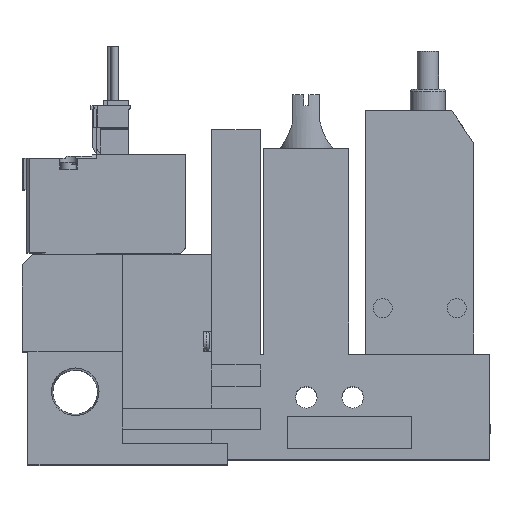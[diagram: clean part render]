
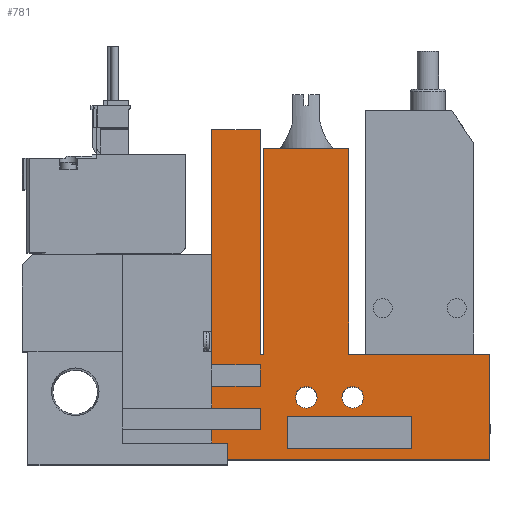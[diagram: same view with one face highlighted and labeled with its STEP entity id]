
A CAD part, top view. The second image highlights one B-rep face of the part: STEP entity #781.
In plain terms, the highlighted planar face has unit normal (0, 0, 1).
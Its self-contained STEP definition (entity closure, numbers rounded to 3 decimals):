
#781=ADVANCED_FACE('',(#1627,#1628,#1629,#1630),#1631,.T.);
#1627=FACE_OUTER_BOUND('',#2652,.T.);
#1628=FACE_BOUND('',#2653,.T.);
#1629=FACE_BOUND('',#2654,.T.);
#1630=FACE_BOUND('',#2655,.T.);
#1631=PLANE('',#2656);
#2652=EDGE_LOOP('',(#5758,#5759,#5760,#5761,#5762,#5763,#5764,#5765,#5766,#5767,#5768,#5769,#5770,#5771,#5772,#5773,#5774,#5775));
#2653=EDGE_LOOP('',(#5776,#5777,#5778,#5779));
#2654=EDGE_LOOP('',(#5780));
#2655=EDGE_LOOP('',(#5781));
#2656=AXIS2_PLACEMENT_3D('',#5782,#5783,#5784);
#5758=ORIENTED_EDGE('',*,*,#7351,.T.);
#5759=ORIENTED_EDGE('',*,*,#7327,.T.);
#5760=ORIENTED_EDGE('',*,*,#7375,.T.);
#5761=ORIENTED_EDGE('',*,*,#7245,.T.);
#5762=ORIENTED_EDGE('',*,*,#7331,.T.);
#5763=ORIENTED_EDGE('',*,*,#7213,.T.);
#5764=ORIENTED_EDGE('',*,*,#7353,.T.);
#5765=ORIENTED_EDGE('',*,*,#7267,.T.);
#5766=ORIENTED_EDGE('',*,*,#7312,.T.);
#5767=ORIENTED_EDGE('',*,*,#7372,.T.);
#5768=ORIENTED_EDGE('',*,*,#7376,.T.);
#5769=ORIENTED_EDGE('',*,*,#7258,.T.);
#5770=ORIENTED_EDGE('',*,*,#7229,.T.);
#5771=ORIENTED_EDGE('',*,*,#7183,.T.);
#5772=ORIENTED_EDGE('',*,*,#7377,.T.);
#5773=ORIENTED_EDGE('',*,*,#7373,.T.);
#5774=ORIENTED_EDGE('',*,*,#7226,.T.);
#5775=ORIENTED_EDGE('',*,*,#7378,.T.);
#5776=ORIENTED_EDGE('',*,*,#7358,.T.);
#5777=ORIENTED_EDGE('',*,*,#7262,.T.);
#5778=ORIENTED_EDGE('',*,*,#7194,.T.);
#5779=ORIENTED_EDGE('',*,*,#7292,.T.);
#5780=ORIENTED_EDGE('',*,*,#7264,.T.);
#5781=ORIENTED_EDGE('',*,*,#7357,.T.);
#5782=CARTESIAN_POINT('',(0.0,0.0,10.0));
#5783=DIRECTION('',(0.0,0.0,1.0));
#5784=DIRECTION('',(1.0,0.0,0.0));
#7183=EDGE_CURVE('',#8773,#8771,#8774,.T.);
#7194=EDGE_CURVE('',#8786,#8791,#8793,.T.);
#7213=EDGE_CURVE('',#8828,#8829,#8830,.T.);
#7226=EDGE_CURVE('',#8854,#8852,#8855,.T.);
#7229=EDGE_CURVE('',#8859,#8773,#8860,.T.);
#7245=EDGE_CURVE('',#8879,#8886,#8888,.T.);
#7258=EDGE_CURVE('',#8911,#8859,#8912,.T.);
#7262=EDGE_CURVE('',#8914,#8786,#8918,.T.);
#7264=EDGE_CURVE('',#8921,#8921,#8922,.T.);
#7267=EDGE_CURVE('',#8928,#8926,#8929,.T.);
#7292=EDGE_CURVE('',#8791,#8966,#8968,.T.);
#7312=EDGE_CURVE('',#8926,#8999,#9001,.T.);
#7327=EDGE_CURVE('',#9018,#9022,#9024,.T.);
#7331=EDGE_CURVE('',#8886,#8828,#9029,.T.);
#7351=EDGE_CURVE('',#9057,#9018,#9058,.T.);
#7353=EDGE_CURVE('',#8829,#8928,#9060,.T.);
#7357=EDGE_CURVE('',#9066,#9066,#9067,.T.);
#7358=EDGE_CURVE('',#8966,#8914,#9068,.T.);
#7372=EDGE_CURVE('',#8999,#9086,#9088,.T.);
#7373=EDGE_CURVE('',#9089,#8854,#9090,.T.);
#7375=EDGE_CURVE('',#9022,#8879,#9092,.T.);
#7376=EDGE_CURVE('',#9086,#8911,#9093,.T.);
#7377=EDGE_CURVE('',#8771,#9089,#9094,.T.);
#7378=EDGE_CURVE('',#8852,#9057,#9095,.T.);
#8771=VERTEX_POINT('',#11337);
#8773=VERTEX_POINT('',#11340);
#8774=LINE('',#11341,#11342);
#8786=VERTEX_POINT('',#11361);
#8791=VERTEX_POINT('',#11368);
#8793=LINE('',#11371,#11372);
#8828=VERTEX_POINT('',#11419);
#8829=VERTEX_POINT('',#11420);
#8830=LINE('',#11421,#11422);
#8852=VERTEX_POINT('',#11454);
#8854=VERTEX_POINT('',#11457);
#8855=LINE('',#11458,#11459);
#8859=VERTEX_POINT('',#11465);
#8860=LINE('',#11466,#11467);
#8879=VERTEX_POINT('',#11489);
#8886=VERTEX_POINT('',#11499);
#8888=LINE('',#11502,#11503);
#8911=VERTEX_POINT('',#11538);
#8912=LINE('',#11539,#11540);
#8914=VERTEX_POINT('',#11543);
#8918=LINE('',#11549,#11550);
#8921=VERTEX_POINT('',#11553);
#8922=CIRCLE('',#11554,2.0);
#8926=VERTEX_POINT('',#11559);
#8928=VERTEX_POINT('',#11562);
#8929=LINE('',#11563,#11564);
#8966=VERTEX_POINT('',#11624);
#8968=LINE('',#11627,#11628);
#8999=VERTEX_POINT('',#11677);
#9001=LINE('',#11680,#11681);
#9018=VERTEX_POINT('',#11709);
#9022=VERTEX_POINT('',#11715);
#9024=LINE('',#11718,#11719);
#9029=LINE('',#11727,#11728);
#9057=VERTEX_POINT('',#11774);
#9058=LINE('',#11775,#11776);
#9060=LINE('',#11779,#11780);
#9066=VERTEX_POINT('',#11788);
#9067=CIRCLE('',#11789,2.0);
#9068=LINE('',#11790,#11791);
#9086=VERTEX_POINT('',#11821);
#9088=LINE('',#11824,#11825);
#9089=VERTEX_POINT('',#11826);
#9090=LINE('',#11827,#11828);
#9092=LINE('',#11831,#11832);
#9093=LINE('',#11833,#11834);
#9094=LINE('',#11835,#11836);
#9095=LINE('',#11837,#11838);
#11337=CARTESIAN_POINT('',(44.75,57.5,10.0));
#11340=CARTESIAN_POINT('',(60.45,57.5,10.0));
#11341=CARTESIAN_POINT('',(60.45,57.5,10.0));
#11342=VECTOR('',#13299,1.0);
#11361=CARTESIAN_POINT('',(72.1,8.0,10.0));
#11368=CARTESIAN_POINT('',(72.1,2.0,10.0));
#11371=CARTESIAN_POINT('',(72.1,0.0,10.0));
#11372=VECTOR('',#13310,1.0);
#11419=CARTESIAN_POINT('',(35.1,9.5,10.0));
#11420=CARTESIAN_POINT('',(44.1,9.5,10.0));
#11421=CARTESIAN_POINT('',(0.0,9.5,10.0));
#11422=VECTOR('',#13338,1.0);
#11454=CARTESIAN_POINT('',(44.1,61.0,10.0));
#11457=CARTESIAN_POINT('',(44.1,19.5,10.0));
#11458=CARTESIAN_POINT('',(44.1,19.5,10.0));
#11459=VECTOR('',#13353,1.0);
#11465=CARTESIAN_POINT('',(60.45,19.5,10.0));
#11466=CARTESIAN_POINT('',(60.45,19.5,10.0));
#11467=VECTOR('',#13356,1.0);
#11489=CARTESIAN_POINT('',(44.1,13.5,10.0));
#11499=CARTESIAN_POINT('',(35.1,13.5,10.0));
#11502=CARTESIAN_POINT('',(0.0,13.5,10.0));
#11503=VECTOR('',#13388,1.0);
#11538=CARTESIAN_POINT('',(86.6,19.5,10.0));
#11539=CARTESIAN_POINT('',(86.6,19.5,10.0));
#11540=VECTOR('',#13401,1.0);
#11543=CARTESIAN_POINT('',(49.1,8.0,10.0));
#11549=CARTESIAN_POINT('',(0.0,8.0,10.0));
#11550=VECTOR('',#13405,1.0);
#11553=CARTESIAN_POINT('',(54.6,11.5,10.0));
#11554=AXIS2_PLACEMENT_3D('',#13409,#13410,#13411);
#11559=CARTESIAN_POINT('',(35.1,5.5,10.0));
#11562=CARTESIAN_POINT('',(44.1,5.5,10.0));
#11563=CARTESIAN_POINT('',(0.0,5.5,10.0));
#11564=VECTOR('',#13414,1.0);
#11624=CARTESIAN_POINT('',(49.1,2.0,10.0));
#11627=CARTESIAN_POINT('',(0.0,2.0,10.0));
#11628=VECTOR('',#13439,1.0);
#11677=CARTESIAN_POINT('',(35.1,0.0,10.0));
#11680=CARTESIAN_POINT('',(35.1,0.0,10.0));
#11681=VECTOR('',#13459,1.0);
#11709=CARTESIAN_POINT('',(35.1,17.5,10.0));
#11715=CARTESIAN_POINT('',(44.1,17.5,10.0));
#11718=CARTESIAN_POINT('',(0.0,17.5,10.0));
#11719=VECTOR('',#13474,1.0);
#11727=CARTESIAN_POINT('',(35.1,0.0,10.0));
#11728=VECTOR('',#13478,1.0);
#11774=CARTESIAN_POINT('',(35.1,61.0,10.0));
#11775=CARTESIAN_POINT('',(35.1,61.0,10.0));
#11776=VECTOR('',#13500,1.0);
#11779=CARTESIAN_POINT('',(44.1,0.0,10.0));
#11780=VECTOR('',#13502,1.0);
#11788=CARTESIAN_POINT('',(63.2,11.5,10.0));
#11789=AXIS2_PLACEMENT_3D('',#13508,#13509,#13510);
#11790=CARTESIAN_POINT('',(49.1,0.0,10.0));
#11791=VECTOR('',#13511,1.0);
#11821=CARTESIAN_POINT('',(86.6,0.0,10.0));
#11824=CARTESIAN_POINT('',(18.6,0.0,10.0));
#11825=VECTOR('',#13525,1.0);
#11826=CARTESIAN_POINT('',(44.75,19.5,10.0));
#11827=CARTESIAN_POINT('',(44.75,19.5,10.0));
#11828=VECTOR('',#13526,1.0);
#11831=CARTESIAN_POINT('',(44.1,0.0,10.0));
#11832=VECTOR('',#13528,1.0);
#11833=CARTESIAN_POINT('',(86.6,0.0,10.0));
#11834=VECTOR('',#13529,1.0);
#11835=CARTESIAN_POINT('',(44.75,57.5,10.0));
#11836=VECTOR('',#13530,1.0);
#11837=CARTESIAN_POINT('',(44.1,61.0,10.0));
#11838=VECTOR('',#13531,1.0);
#13299=DIRECTION('',(-1.0,0.0,0.0));
#13310=DIRECTION('',(0.0,-1.0,0.0));
#13338=DIRECTION('',(1.0,0.0,0.0));
#13353=DIRECTION('',(0.0,1.0,0.0));
#13356=DIRECTION('',(0.0,1.0,0.0));
#13388=DIRECTION('',(-1.0,0.0,0.0));
#13401=DIRECTION('',(-1.0,0.0,0.0));
#13405=DIRECTION('',(1.0,0.0,0.0));
#13409=CARTESIAN_POINT('',(52.6,11.5,10.0));
#13410=DIRECTION('',(0.0,0.0,-1.0));
#13411=DIRECTION('',(1.0,0.0,0.0));
#13414=DIRECTION('',(-1.0,0.0,0.0));
#13439=DIRECTION('',(-1.0,0.0,0.0));
#13459=DIRECTION('',(0.0,-1.0,0.0));
#13474=DIRECTION('',(1.0,0.0,0.0));
#13478=DIRECTION('',(0.0,-1.0,0.0));
#13500=DIRECTION('',(0.0,-1.0,0.0));
#13502=DIRECTION('',(0.0,-1.0,0.0));
#13508=CARTESIAN_POINT('',(61.2,11.5,10.0));
#13509=DIRECTION('',(0.0,0.0,-1.0));
#13510=DIRECTION('',(1.0,0.0,0.0));
#13511=DIRECTION('',(0.0,1.0,0.0));
#13525=DIRECTION('',(1.0,0.0,0.0));
#13526=DIRECTION('',(-1.0,0.0,0.0));
#13528=DIRECTION('',(0.0,-1.0,0.0));
#13529=DIRECTION('',(0.0,1.0,0.0));
#13530=DIRECTION('',(0.0,-1.0,0.0));
#13531=DIRECTION('',(-1.0,0.0,0.0));
